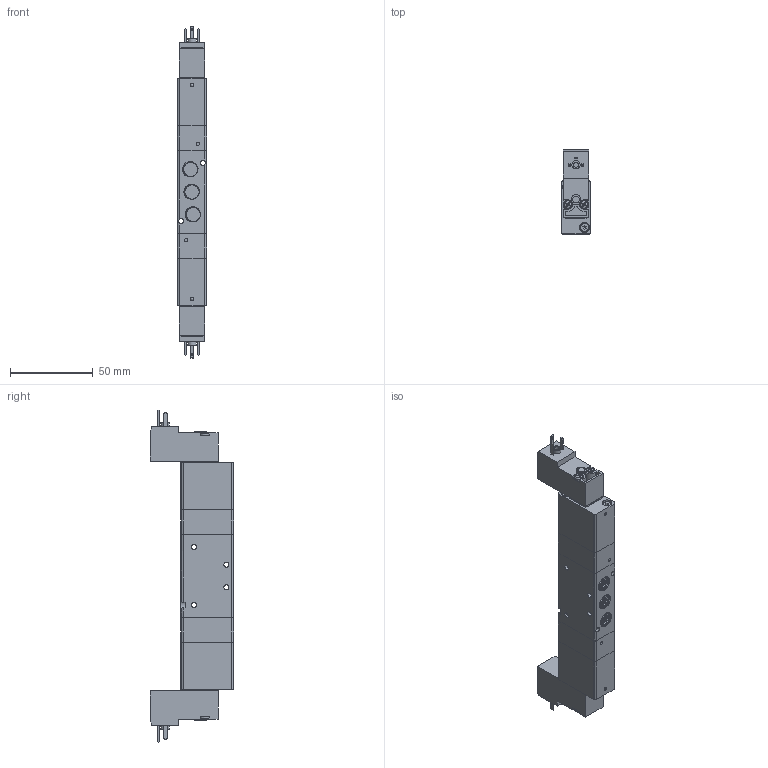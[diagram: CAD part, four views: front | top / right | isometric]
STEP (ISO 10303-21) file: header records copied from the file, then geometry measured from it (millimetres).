
FILE_DESCRIPTION((''),'2;1');
FILE_NAME('05_060_4.stp','2003-02-27T14:17:37',(''),(''),'AutoCAD STEP 2000i','AutoCAD 2000i',', , ');
FILE_SCHEMA(('CONFIG_CONTROL_DESIGN'));
Length unit declared in the file: millimetre
Products named in the file (10): 05_060_4; 751 TELO; PART1A; 851 DUGI MAGNET SA STRANE; PART2; PART1; 00_253_0; PART1AA; 00_253_0|AVE_RENDER; 00_253_0|AVE_GLOBAL
Assembly tree (18 placements, depth 3):
  05_060_4
    751 TELO
      PART1A
    851 DUGI MAGNET SA STRANE  x2
      PART2
      PART1
    00_253_0  x2
      PART1AA
      00_253_0|AVE_RENDER
      00_253_0|AVE_GLOBAL
Bounding box: 18 x 50.5 x 200 mm (x, y, z)
Volume: 97130.1 mm3; surface area: 31711.5 mm2
Topology: 7 solids, 11 shells, 1079 faces, 2698 edges, 1674 vertices
Faces by surface type: cylinder 360, plane 343, cone 196, torus 152, bspline 18, sphere 10
Entity records: 33324 total; most frequent: CARTESIAN_POINT 18049, DIRECTION 3230, ORIENTED_EDGE 3162, EDGE_CURVE 1581, AXIS2_PLACEMENT_3D 1294, VERTEX_POINT 990, EDGE_LOOP 671, CIRCLE 657
